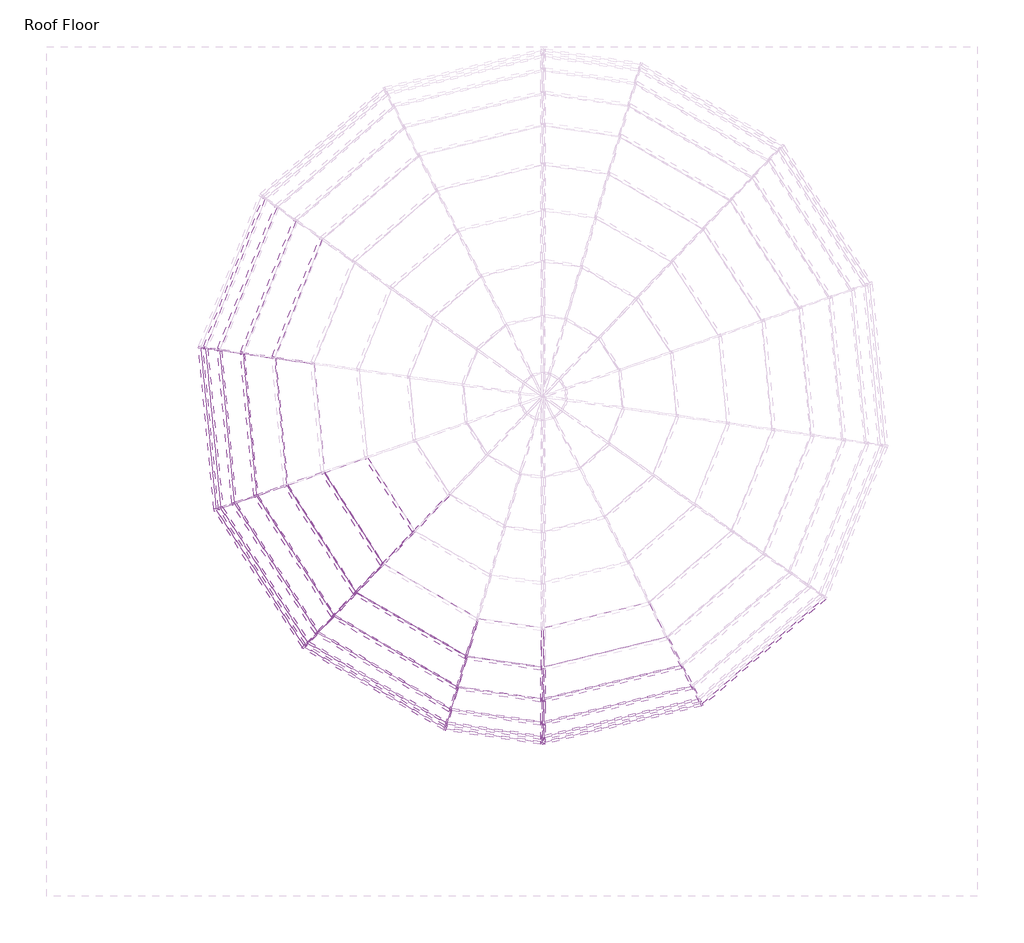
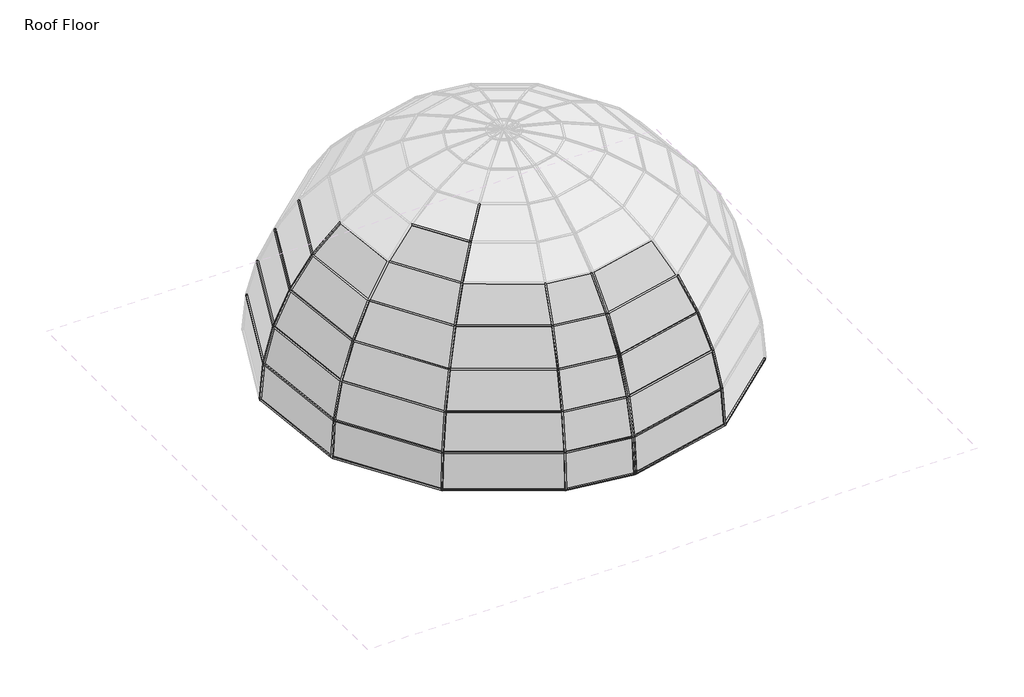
# One storey, part 1 of 5: 64 members, 26 plates.
"""IFC4 building model written with IfcOpenShell, lengths in millimetres."""

from ifc_helpers import new_model, si_unit, origin, place, context, project, spatial, transform, mapped, element, save
from components import member_4cbb40d8, member_e5884c93, member_19e455aa, member_1644e863, member_ecfbb555, member_824fc51d, member_1f5db4fb, member_3542fcca, member_54749c12, member_8c0c7285, member_24c90e2e, member_6952dcc5, member_c3dcfc8e, member_16816f3b, member_95e271e4, member_56577a18, member_7f7bd10d, member_e03b8e9c, member_dc775c2f, member_acb6b9ec, member_e077157f, member_8ccf5568, member_3c5b05b3, member_fd7ad58a, member_76afc974, member_c7f1f8f4, member_51c93bb0, system_panel_glazed_8f517b17, system_panel_glazed_e103372f, system_panel_glazed_d4e3dddd, system_panel_glazed_6000cac6, system_panel_glazed_c16507b5, system_panel_glazed_773f6a53, system_panel_glazed_509ce35e, system_panel_glazed_afa622ac, system_panel_glazed_fdc99001, system_panel_glazed_fc471d4c, system_panel_glazed_079f8796, system_panel_glazed_023fd094, system_panel_glazed_a1e2ecf7, system_panel_glazed_c9cd471f, system_panel_glazed_8f62df24, system_panel_glazed_44273b71

model = new_model("IFC4")

# Units and contexts
model_context = context("Model", 3, world=origin())
ifc_project = project(units=[si_unit("LENGTHUNIT", "METRE", prefix="MILLI")], contexts=[model_context])

# Site, building, storey
site = spatial("IfcSite", under=ifc_project)
building = spatial("IfcBuilding", under=site)
storey = spatial("IfcBuildingStorey", under=building, Name="Roof Floor", Elevation=15240.0)

# Members
placement = place(None, origin())
member_shape = member_4cbb40d8(model_context)
element("IfcMember", 1, ObjectType="Rectangular Mullion : 1\" Square", at=placement, inside=storey, context=model_context, shape_type="MappedRepresentation", body=[
    mapped(member_shape, transform((-2496.2458139, -4273.2496471, 21117.9670279), x_axis=(0.08886370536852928, 0.6165291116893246, 0.7823011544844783), y_axis=(-0.11160400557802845, -0.7742994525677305, 0.6229003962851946), z_axis=(0.9897715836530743, -0.14266117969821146, 0.0))),
])
member_2_shape = member_e5884c93(model_context)
element("IfcMember", 2, ObjectType="Rectangular Mullion : 1\" Square", at=placement, inside=storey, context=model_context, shape_type="MappedRepresentation", body=[
    mapped(member_2_shape, transform((-3496.18083, -4124.3511917, 21117.9670279), x_axis=(0.31528228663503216, 0.5452768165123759, 0.7767047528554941), y_axis=(-0.38878380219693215, -0.6723967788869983, 0.6298648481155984), z_axis=(0.8657044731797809, -0.5005554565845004, 0.0))),
])
element("IfcMember", 3, ObjectType="Rectangular Mullion : 1\" Square", at=placement, inside=storey, context=model_context, shape_type="MappedRepresentation", body=[
    mapped(member_2_shape, transform((-4957.4772001, -3272.7002476, 21117.9670279), x_axis=(0.5300546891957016, 0.3402524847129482, 0.7767047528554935), y_axis=(-0.6536259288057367, -0.41957528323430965, 0.6298648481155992), z_axis=(0.5401991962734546, -0.8415371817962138, 0.0))),
])
element("IfcMember", 4, ObjectType="Rectangular Mullion : 1\" Square", at=placement, inside=storey, context=model_context, shape_type="MappedRepresentation", body=[
    mapped(member_2_shape, transform((-6020.5401393, -161.9169828, 21117.9670279), x_axis=(0.5846780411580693, -0.2342676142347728, 0.7767047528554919), y_axis=(-0.7209835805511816, 0.28888224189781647, 0.6298648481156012), z_axis=(-0.3719331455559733, -0.9282595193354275, 0.0))),
])
member_3_shape = member_19e455aa(model_context)
element("IfcMember", 5, ObjectType="Rectangular Mullion : 1\" Square", at=placement, inside=storey, context=model_context, shape_type="MappedRepresentation", body=[
    mapped(member_3_shape, transform((-2496.2458139, -4693.39682, 20482.2624164), x_axis=(0.06901071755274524, 0.4787907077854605, 0.875212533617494), y_axis=(-0.12485885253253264, -0.8662604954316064, 0.4837385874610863), z_axis=(0.9897715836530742, -0.1426611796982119, 0.0))),
])
member_4_shape = member_1644e863(model_context)
element("IfcMember", 6, ObjectType="Rectangular Mullion : 1\" Square", at=placement, inside=storey, context=model_context, shape_type="MappedRepresentation", body=[
    mapped(member_4_shape, transform((-3614.8320569, -4527.3965158, 20482.2624164), x_axis=(0.24554093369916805, 0.424660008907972, 0.8714204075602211), y_axis=(-0.4361942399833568, -0.7543925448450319, 0.4905369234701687), z_axis=(0.8657044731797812, -0.5005554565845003, 0.0))),
])
element("IfcMember", 7, ObjectType="Rectangular Mullion : 1\" Square", at=placement, inside=storey, context=model_context, shape_type="MappedRepresentation", body=[
    mapped(member_4_shape, transform((-5247.5892288, -3576.60592, 20482.2624164), x_axis=(0.41280506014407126, 0.26498765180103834, 0.8714204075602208), y_axis=(-0.7333326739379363, -0.4707406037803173, 0.49053692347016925), z_axis=(0.5401991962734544, -0.841537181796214, 0.0))),
])
element("IfcMember", 8, ObjectType="Rectangular Mullion : 1\" Square", at=placement, inside=storey, context=model_context, shape_type="MappedRepresentation", body=[
    mapped(member_4_shape, transform((-6263.3500422, -1983.4553593, 20482.2624164), x_axis=(0.48833472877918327, 0.04642914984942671, 0.8714204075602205), y_axis=(-0.867508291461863, -0.0824796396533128, 0.49053692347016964), z_axis=(0.09464965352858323, -0.9955106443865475, 0.0))),
])
element("IfcMember", 9, ObjectType="Rectangular Mullion : 1\" Square", at=placement, inside=storey, context=model_context, shape_type="MappedRepresentation", body=[
    mapped(member_4_shape, transform((-6436.389872, -101.9782914, 20482.2624164), x_axis=(0.4553455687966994, -0.1824469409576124, 0.8714204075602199), y_axis=(-0.8089042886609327, 0.32411013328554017, 0.4905369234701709), z_axis=(-0.3719331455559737, -0.9282595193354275, 0.0))),
])
member_5_shape = member_ecfbb555(model_context)
element("IfcMember", 10, ObjectType="Rectangular Mullion : 1\" Square", at=placement, inside=storey, context=model_context, shape_type="MappedRepresentation", body=[
    mapped(member_5_shape, transform((-6555.1468004, -2084.2947787, 19785.6060711), x_axis=(0.3344897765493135, 0.03180211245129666, 0.941862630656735), y_axis=(-0.9376342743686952, -0.08914697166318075, 0.3359981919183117), z_axis=(0.09464965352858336, -0.9955106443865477, 0.0))),
])
element("IfcMember", 11, ObjectType="Rectangular Mullion : 1\" Square", at=placement, inside=storey, context=model_context, shape_type="MappedRepresentation", body=[
    mapped(member_5_shape, transform((-6741.9616101, -57.9345693, 19785.6060711), x_axis=(0.311893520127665, -0.12496886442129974, 0.9418626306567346), y_axis=(-0.8742929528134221, 0.35030993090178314, 0.33599819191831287), z_axis=(-0.3719331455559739, -0.9282595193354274, 0.0))),
])
element("IfcMember", 12, ObjectType="Rectangular Mullion : 1\" Square", at=placement, inside=storey, context=model_context, shape_type="MappedRepresentation", body=[
    mapped(member_5_shape, transform((-3702.0185062, -4823.5594096, 19785.6060711), x_axis=(0.16818572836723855, 0.2908751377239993, 0.9418626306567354), y_axis=(-0.47145447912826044, -0.815374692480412, 0.33599819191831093), z_axis=(0.8657044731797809, -0.5005554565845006, 0.0))),
])
element("IfcMember", 13, ObjectType="Rectangular Mullion : 1\" Square", at=placement, inside=storey, context=model_context, shape_type="MappedRepresentation", body=[
    mapped(member_5_shape, transform((-5460.767283, -3799.9197212, 19785.6060711), x_axis=(0.2827549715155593, 0.18150595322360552, 0.9418626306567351), y_axis=(-0.7926124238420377, -0.5087934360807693, 0.33599819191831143), z_axis=(0.5401991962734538, -0.8415371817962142, 0.0))),
])
member_6_shape = member_824fc51d(model_context)
element("IfcMember", 14, ObjectType="Rectangular Mullion : 1\" Square", at=placement, inside=storey, context=model_context, shape_type="MappedRepresentation", body=[
    mapped(member_6_shape, transform((-504.4652648, -4528.7696197, 19785.6060711), x_axis=(-0.0791955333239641, 0.3265315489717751, 0.9418626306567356), y_axis=(0.22199915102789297, -0.9153259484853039, 0.3359981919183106), z_axis=(0.9718253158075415, 0.23570226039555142, 0.0))),
])
member_7_shape = member_1f5db4fb(model_context)
element("IfcMember", 15, ObjectType="Rectangular Mullion : 1\" Square", at=placement, inside=storey, context=model_context, shape_type="MappedRepresentation", body=[
    mapped(member_7_shape, transform((-2496.2458139, -5190.8624836, 19047.3495572), x_axis=(0.02393216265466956, 0.1660393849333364, 0.9858286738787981), y_axis=(-0.140639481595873, -0.9757452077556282, 0.16775525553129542), z_axis=(0.9897715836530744, -0.14266117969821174, 0.0))),
])
member_8_shape = member_3542fcca(model_context)
element("IfcMember", 16, ObjectType="Rectangular Mullion : 1\" Square", at=placement, inside=storey, context=model_context, shape_type="MappedRepresentation", body=[
    mapped(member_8_shape, transform((-3755.318332, -5004.6131259, 19047.3495572), x_axis=(0.08547664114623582, 0.1478307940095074, 0.9853120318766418), y_axis=(-0.4932033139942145, -0.8529890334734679, 0.1707635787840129), z_axis=(0.8657044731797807, -0.5005554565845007, 0.0))),
])
element("IfcMember", 17, ObjectType="Rectangular Mullion : 1\" Square", at=placement, inside=storey, context=model_context, shape_type="MappedRepresentation", body=[
    mapped(member_8_shape, transform((-5591.08975, -3936.43849, 19047.3495572), x_axis=(0.14370390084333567, 0.09224634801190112, 0.9853120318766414), y_axis=(-0.8291767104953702, -0.5322647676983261, 0.17076357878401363), z_axis=(0.540199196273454, -0.8415371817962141, 0.0))),
])
element("IfcMember", 18, ObjectType="Rectangular Mullion : 1\" Square", at=placement, inside=storey, context=model_context, shape_type="MappedRepresentation", body=[
    mapped(member_8_shape, transform((-6733.5313603, -2145.9410957, 19047.3495572), x_axis=(0.16999696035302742, 0.016162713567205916, 0.9853120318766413), y_axis=(-0.9808886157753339, -0.09325944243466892, 0.17076357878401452), z_axis=(0.09464965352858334, -0.9955106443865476, 0.0))),
])
element("IfcMember", 19, ObjectType="Rectangular Mullion : 1\" Square", at=placement, inside=storey, context=model_context, shape_type="MappedRepresentation", body=[
    mapped(member_8_shape, transform((-6928.7672496, -31.009253, 19047.3495572), x_axis=(0.1585129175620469, -0.06351263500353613, 0.9853120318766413), y_axis=(-0.9146252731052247, 0.3664702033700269, 0.17076357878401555), z_axis=(-0.37193314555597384, -0.9282595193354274, 0.0))),
])
member_9_shape = member_54749c12(model_context)
element("IfcMember", 20, ObjectType="Rectangular Mullion : 1\" Square", at=placement, inside=storey, context=model_context, shape_type="MappedRepresentation", body=[
    mapped(member_9_shape, transform((-645.9013264, -4254.3433509, 20482.2624164), x_axis=(-0.11562066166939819, 0.47671620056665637, 0.8714204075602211), y_axis=(0.20539575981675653, -0.8468684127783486, 0.49053692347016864), z_axis=(0.9718253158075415, 0.2357022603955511, 0.0))),
])
member_10_shape = member_8c0c7285(model_context)
element("IfcMember", 21, ObjectType="Rectangular Mullion : 1\" Square", at=placement, inside=storey, context=model_context, shape_type="MappedRepresentation", body=[
    mapped(member_10_shape, transform((-2496.2458139, -5002.1263725, 19785.6060711), x_axis=(0.04716053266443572, 0.3271959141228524, 0.9437789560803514), y_axis=(-0.1346406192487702, -0.9341255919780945, 0.33057719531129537), z_axis=(0.9897715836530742, -0.14266117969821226, 0.0))),
])
member_11_shape = member_24c90e2e(model_context)
element("IfcMember", 22, ObjectType="Rectangular Mullion : 1\" Square", at=placement, inside=storey, context=model_context, shape_type="MappedRepresentation", body=[
    mapped(member_11_shape, transform((-418.0009402, -4696.5350518, 19047.3495572), x_axis=(-0.04024936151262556, 0.16595236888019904, 0.9853120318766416), y_axis=(0.23224027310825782, -0.9575511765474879, 0.17076357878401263), z_axis=(0.9718253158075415, 0.23570226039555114, 0.0))),
])
member_12_shape = member_6952dcc5(model_context)
element("IfcMember", 23, ObjectType="Rectangular Mullion : 1\" Square", at=placement, inside=storey, context=model_context, shape_type="MappedRepresentation", body=[
    mapped(member_12_shape, transform((-6995.1392456, -46.3821492, 18288.0), x_axis=(-0.08063742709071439, -0.007666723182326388, -0.9967140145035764), y_axis=(-0.9922394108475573, -0.09433863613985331, 0.08100106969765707), z_axis=(-0.09464965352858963, 0.995510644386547, 0.0))),
])
element("IfcMember", 24, ObjectType="Rectangular Mullion : 1\" Square", at=placement, inside=storey, context=model_context, shape_type="MappedRepresentation", body=[
    mapped(member_12_shape, transform((-6785.4860151, -2190.0124201, 18288.0), x_axis=(-0.06816541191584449, -0.04375671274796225, -0.9967140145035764), y_axis=(-0.8387719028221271, -0.5384241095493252, 0.08100106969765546), z_axis=(-0.5401991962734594, 0.8415371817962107, 0.0))),
])
element("IfcMember", 25, ObjectType="Rectangular Mullion : 1\" Square", at=placement, inside=storey, context=model_context, shape_type="MappedRepresentation", body=[
    mapped(member_12_shape, transform((-5617.0815847, -3999.4146149, 18288.0), x_axis=(-0.04054552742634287, -0.07012298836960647, -0.9967140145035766), y_axis=(-0.4989106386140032, -0.8628597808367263, 0.08100106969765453), z_axis=(-0.8657044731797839, 0.5005554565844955, 0.0))),
])
element("IfcMember", 26, ObjectType="Rectangular Mullion : 1\" Square", at=placement, inside=storey, context=model_context, shape_type="MappedRepresentation", body=[
    mapped(member_12_shape, transform((-366.9684834, -4741.6710256, 18288.0), x_axis=(0.053033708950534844, -0.061225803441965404, -0.9967140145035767), y_axis=(0.6525770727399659, -0.7533803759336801, 0.08100106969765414), z_axis=(-0.7558641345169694, -0.6547285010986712, 0.0))),
])
member_13_shape = member_c3dcfc8e(model_context)
element("IfcMember", 27, ObjectType="Rectangular Mullion : 1\" Square", at=placement, inside=storey, context=model_context, shape_type="MappedRepresentation", body=[
    mapped(member_13_shape, transform((-3749.6864378, -5073.6972463, 18288.0), x_axis=(-0.01176766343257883, -0.0816430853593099, -0.9965921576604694), y_axis=(-0.14217501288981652, -0.9863985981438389, 0.08248679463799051), z_axis=(-0.9897715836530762, 0.14266117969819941, 0.0))),
])
member_14_shape = member_16816f3b(model_context)
element("IfcMember", 28, ObjectType="Rectangular Mullion : 1\" Square", at=placement, inside=storey, context=model_context, shape_type="MappedRepresentation", body=[
    mapped(member_14_shape, transform((-4180.5990919, -2458.884754, 22138.0708204), x_axis=(0.714452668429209, 0.4586211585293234, 0.5284165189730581), y_axis=(-0.4446821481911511, -0.28545017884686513, 0.8489852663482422), z_axis=(0.5401991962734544, -0.841537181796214, 0.0))),
])
member_15_shape = member_95e271e4(model_context)
element("IfcMember", 29, ObjectType="Rectangular Mullion : 1\" Square", at=placement, inside=storey, context=model_context, shape_type="MappedRepresentation", body=[
    mapped(member_15_shape, transform((-4598.4898643, -2896.6445282, 21675.0614442), x_axis=(0.6313968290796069, 0.40530598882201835, 0.6611089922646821), y_axis=(-0.5563477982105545, -0.35713054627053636, 0.7502898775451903), z_axis=(0.5401991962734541, -0.8415371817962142, 0.0))),
])
member_16_shape = member_56577a18(model_context)
element("IfcMember", 30, ObjectType="Rectangular Mullion : 1\" Square", at=placement, inside=storey, context=model_context, shape_type="MappedRepresentation", body=[
    mapped(member_16_shape, transform((-2446.4212527, -5251.9992402, 18288.0), x_axis=(0.01909213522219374, -0.078718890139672, -0.9967140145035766), y_axis=(0.23492774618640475, -0.9686319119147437, 0.08100106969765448), z_axis=(-0.9718253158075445, -0.2357022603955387, 0.0))),
])
member_17_shape = member_7f7bd10d(model_context)
element("IfcMember", 31, ObjectType="Rectangular Mullion : 1\" Square", at=placement, inside=storey, context=model_context, shape_type="MappedRepresentation", body=[
    mapped(member_17_shape, transform((-6933.4908006, -42.7981489, 19047.3495572), x_axis=(-0.14266117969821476, -0.9897715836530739, 0.0), y_axis=(-0.9589308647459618, 0.1382159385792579, 0.24768518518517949), z_axis=(-0.24515175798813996, 0.03533506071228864, -0.9688405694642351))),
])
element("IfcMember", 32, ObjectType="Rectangular Mullion : 1\" Square", at=placement, inside=storey, context=model_context, shape_type="MappedRepresentation", body=[
    mapped(member_17_shape, transform((-6746.685161, -69.7234652, 19785.6060711), x_axis=(-0.1426611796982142, -0.9897715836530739, 0.0), y_axis=(-0.904895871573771, 0.13042758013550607, 0.40515689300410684), z_axis=(-0.401012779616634, 0.0578001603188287, -0.9142471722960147))),
])
element("IfcMember", 33, ObjectType="Rectangular Mullion : 1\" Square", at=placement, inside=storey, context=model_context, shape_type="MappedRepresentation", body=[
    mapped(member_17_shape, transform((-6441.1134229, -113.7671873, 20482.2624164), x_axis=(-0.1426611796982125, -0.9897715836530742, 0.0), y_axis=(-0.8257248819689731, 0.11901623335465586, 0.5513742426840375), z_axis=(-0.5457345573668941, 0.07865969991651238, -0.834258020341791))),
])
element("IfcMember", 34, ObjectType="Rectangular Mullion : 1\" Square", at=placement, inside=storey, context=model_context, shape_type="MappedRepresentation", body=[
    mapped(member_17_shape, transform((-6025.2636902, -173.7058787, 21117.9670279), x_axis=(-0.1426611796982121, -0.9897715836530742, 0.0), y_axis=(-0.7236170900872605, 0.1042988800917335, 0.6822756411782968), z_axis=(-0.6752970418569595, 0.09733424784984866, -0.731095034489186))),
])
element("IfcMember", 35, ObjectType="Rectangular Mullion : 1\" Square", at=placement, inside=storey, context=model_context, shape_type="MappedRepresentation", body=[
    mapped(member_17_shape, transform((-405.6587587, -4693.5416331, 19047.3495572), x_axis=(0.8888888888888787, 0.4581228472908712, 0.0), y_axis=(0.44384800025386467, -0.8611916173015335, 0.2476851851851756), z_axis=(0.11347024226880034, -0.2201646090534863, -0.9688405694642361))),
])
element("IfcMember", 36, ObjectType="Rectangular Mullion : 1\" Square", at=placement, inside=storey, context=model_context, shape_type="MappedRepresentation", body=[
    mapped(member_17_shape, transform((-492.1230833, -4525.776201, 19785.6060711), x_axis=(0.8888888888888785, 0.45812284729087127, 0.0), y_axis=(0.4188375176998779, -0.8126641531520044, 0.4051568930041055), z_axis=(0.18561162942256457, -0.3601394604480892, -0.9142471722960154))),
])
element("IfcMember", 37, ObjectType="Rectangular Mullion : 1\" Square", at=placement, inside=storey, context=model_context, shape_type="MappedRepresentation", body=[
    mapped(member_17_shape, transform((-633.5591449, -4251.3499322, 20482.2624164), x_axis=(0.8888888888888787, 0.458122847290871, 0.0), y_axis=(0.38219265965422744, -0.7415626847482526, 0.5513742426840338), z_axis=(0.2525971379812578, -0.4901104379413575, -0.8342580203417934))),
])
member_18_shape = member_e03b8e9c(model_context)
element("IfcMember", 38, ObjectType="Rectangular Mullion : 1\" Square", at=placement, inside=storey, context=model_context, shape_type="MappedRepresentation", body=[
    mapped(member_18_shape, transform((-2471.1056157, -5194.4860776, 19047.3495572), x_axis=(-0.9720128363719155, -0.23411060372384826, 0.01957731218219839), y_axis=(0.23492774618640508, -0.9686319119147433, 0.08100106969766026), z_axis=(0.0, 0.08333333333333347, 0.9965217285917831))),
])
member_19_shape = member_dc775c2f(model_context)
element("IfcMember", 39, ObjectType="Rectangular Mullion : 1\" Square", at=placement, inside=storey, context=model_context, shape_type="MappedRepresentation", body=[
    mapped(member_19_shape, transform((-2471.1056157, -5005.7499665, 19785.6060711), x_axis=(-0.9734856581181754, -0.2216203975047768, 0.05665750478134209), y_axis=(0.22874805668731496, -0.9431523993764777, 0.24111797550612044), z_axis=(0.0, 0.247685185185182, 0.9688405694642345))),
])
member_20_shape = member_acb6b9ec(model_context)
element("IfcMember", 40, ObjectType="Rectangular Mullion : 1\" Square", at=placement, inside=storey, context=model_context, shape_type="MappedRepresentation", body=[
    mapped(member_20_shape, transform((-2471.1056157, -4697.020414, 20482.2624164), x_axis=(-0.9762871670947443, -0.19791575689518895, 0.08770815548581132), y_axis=(0.21647948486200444, -0.8925677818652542, 0.3955494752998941), z_axis=(0.0, 0.4051568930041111, 0.9142471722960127))),
])
member_21_shape = member_e077157f(model_context)
element("IfcMember", 41, ObjectType="Rectangular Mullion : 1\" Square", at=placement, inside=storey, context=model_context, shape_type="MappedRepresentation", body=[
    mapped(member_21_shape, transform((-2471.1056157, -4276.8732411, 21117.9670279), x_axis=(-0.980137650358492, -0.16544871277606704, 0.10934765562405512), y_axis=(0.1983183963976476, -0.817687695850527, 0.54042265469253), z_axis=(0.0, 0.5513742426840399, 0.8342580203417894))),
])
member_22_shape = member_8ccf5568(model_context)
element("IfcMember", 42, ObjectType="Rectangular Mullion : 1\" Square", at=placement, inside=storey, context=model_context, shape_type="MappedRepresentation", body=[
    mapped(member_22_shape, transform((-3762.2565369, -5071.8854493, 18288.0), x_axis=(0.9592955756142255, -0.2824039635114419, 0.0), y_axis=(-0.2814216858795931, -0.9559588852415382, 0.08333333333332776), z_axis=(-0.023533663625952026, -0.07994129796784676, -0.9965217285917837))),
])
element("IfcMember", 43, ObjectType="Rectangular Mullion : 1\" Square", at=placement, inside=storey, context=model_context, shape_type="MappedRepresentation", body=[
    mapped(member_22_shape, transform((-5628.0760315, -3993.0575606, 18288.0), x_axis=(0.7233314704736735, -0.690500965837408, 0.0), y_axis=(-0.6880992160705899, -0.720815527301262, 0.08333333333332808), z_axis=(-0.057541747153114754, -0.06027762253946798, -0.9965217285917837))),
])
element("IfcMember", 44, ObjectType="Rectangular Mullion : 1\" Square", at=placement, inside=storey, context=model_context, shape_type="MappedRepresentation", body=[
    mapped(member_22_shape, transform((-6792.3465449, -2179.3248979, 18288.0), x_axis=(0.3266270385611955, -0.9451533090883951, 0.0), y_axis=(-0.9418658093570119, -0.32549094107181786, 0.08333333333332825), z_axis=(-0.07876277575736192, -0.02721891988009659, -0.9965217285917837))),
])
member_23_shape = member_3c5b05b3(model_context)
element("IfcMember", 45, ObjectType="Rectangular Mullion : 1\" Square", at=placement, inside=storey, context=model_context, shape_type="MappedRepresentation", body=[
    mapped(member_23_shape, transform((-2471.1056157, -5194.4860776, 19047.3495572), x_axis=(0.9903900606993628, -0.13399288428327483, 0.034255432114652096), y_axis=(-0.13830230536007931, -0.9595300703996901, 0.2453049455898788), z_axis=(0.0, -0.247685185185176, -0.9688405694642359))),
])
member_24_shape = member_fd7ad58a(model_context)
element("IfcMember", 46, ObjectType="Rectangular Mullion : 1\" Square", at=placement, inside=storey, context=model_context, shape_type="MappedRepresentation", body=[
    mapped(member_24_shape, transform((-2471.1056157, -5005.7499665, 19785.6060711), x_axis=(0.9914290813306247, -0.1194427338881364, 0.052932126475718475), y_axis=(-0.13064599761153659, -0.9064112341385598, 0.4016843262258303), z_axis=(0.0, -0.4051568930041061, -0.914247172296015))),
])
member_25_shape = member_76afc974(model_context)
element("IfcMember", 47, ObjectType="Rectangular Mullion : 1\" Square", at=placement, inside=storey, context=model_context, shape_type="MappedRepresentation", body=[
    mapped(member_25_shape, transform((-2471.1056157, -4697.020414, 20482.2624164), x_axis=(0.9928478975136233, -0.09959885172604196, 0.06582644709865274), y_axis=(-0.11938614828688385, -0.828291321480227, 0.5474307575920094), z_axis=(0.0, -0.551374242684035, -0.8342580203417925))),
])
member_26_shape = member_c7f1f8f4(model_context)
element("IfcMember", 48, ObjectType="Rectangular Mullion : 1\" Square", at=placement, inside=storey, context=model_context, shape_type="MappedRepresentation", body=[
    mapped(member_26_shape, transform((-2471.1056157, -4276.8732411, 21117.9670279), x_axis=(0.9944936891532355, -0.07661618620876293, 0.07150008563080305), y_axis=(-0.10479648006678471, -0.7270693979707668, 0.678518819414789), z_axis=(0.0, -0.6822756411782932, -0.7310950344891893))),
])
member_27_shape = member_51c93bb0(model_context)
element("IfcMember", 49, ObjectType="Rectangular Mullion : 1\" Square", at=placement, inside=storey, context=model_context, shape_type="MappedRepresentation", body=[
    mapped(member_27_shape, transform((-2471.1056157, -5257.9860776, 18288.0), x_axis=(0.9898415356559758, -0.14168048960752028, 0.011847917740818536), y_axis=(-0.14217501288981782, -0.9863985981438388, 0.08248679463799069), z_axis=(0.0, -0.08333333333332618, -0.9965217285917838))),
])
element("IfcMember", 50, ObjectType="Rectangular Mullion : 1\" Square", at=placement, inside=storey, context=model_context, shape_type="MappedRepresentation", body=[
    mapped(member_22_shape, transform((-6996.3412962, -33.739164, 18288.0), x_axis=(-0.14266117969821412, -0.9897715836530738, 0.0), y_axis=(-0.9863288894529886, 0.1421649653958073, 0.08333333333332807), z_axis=(-0.08248096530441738, 0.011888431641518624, -0.9965217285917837))),
])
element("IfcMember", 51, ObjectType="Rectangular Mullion : 1\" Square", at=placement, inside=storey, context=model_context, shape_type="MappedRepresentation", body=[
    mapped(member_22_shape, transform((-376.5679579, -4749.9860776, 18288.0), x_axis=(0.8888888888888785, 0.4581228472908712, 0.0), y_axis=(0.45652937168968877, -0.8857970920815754, 0.08333333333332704), z_axis=(0.03817690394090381, -0.07407407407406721, -0.9965217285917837))),
])
element("IfcMember", 52, ObjectType="Rectangular Mullion : 1\" Square", at=placement, inside=storey, context=model_context, shape_type="MappedRepresentation", body=[
    mapped(member_17_shape, transform((-6732.3293097, -2158.5840809, 19047.3495572), x_axis=(0.3266270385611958, -0.945153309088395, 0.0), y_axis=(-0.9157028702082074, -0.3164495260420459, 0.247685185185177), z_axis=(-0.23410047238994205, -0.08090067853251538, -0.9688405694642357))),
])
element("IfcMember", 53, ObjectType="Rectangular Mullion : 1\" Square", at=placement, inside=storey, context=model_context, shape_type="MappedRepresentation", body=[
    mapped(member_17_shape, transform((-6553.9447498, -2096.9377639, 19785.6060711), x_axis=(0.3266270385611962, -0.9451533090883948, 0.0), y_axis=(-0.8641037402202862, -0.2986178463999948, 0.4051568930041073), z_axis=(-0.3829353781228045, -0.1323351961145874, -0.9142471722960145))),
])
element("IfcMember", 54, ObjectType="Rectangular Mullion : 1\" Square", at=placement, inside=storey, context=model_context, shape_type="MappedRepresentation", body=[
    mapped(member_17_shape, transform((-6262.1479916, -1996.0983444, 20482.2624164), x_axis=(0.32662703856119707, -0.9451533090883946, 0.0), y_axis=(-0.78850172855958, -0.2724912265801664, 0.5513742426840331), z_axis=(-0.5211331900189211, -0.18009373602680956, -0.834258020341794))),
])
element("IfcMember", 55, ObjectType="Rectangular Mullion : 1\" Square", at=placement, inside=storey, context=model_context, shape_type="MappedRepresentation", body=[
    mapped(member_17_shape, transform((-5584.2292202, -3947.1260122, 19047.3495572), x_axis=(0.7233314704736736, -0.6905009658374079, 0.0), y_axis=(-0.668985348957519, -0.7007928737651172, 0.24768518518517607), z_axis=(-0.17102685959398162, -0.1791584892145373, -0.968840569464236))),
])
element("IfcMember", 56, ObjectType="Rectangular Mullion : 1\" Square", at=placement, inside=storey, context=model_context, shape_type="MappedRepresentation", body=[
    mapped(member_17_shape, transform((-5453.9067532, -3810.6072434, 19785.6060711), x_axis=(0.7233314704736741, -0.6905009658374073, 0.0), y_axis=(-0.6312885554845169, -0.6613037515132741, 0.4051568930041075), z_axis=(-0.27976122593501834, -0.29306273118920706, -0.9142471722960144))),
])
element("IfcMember", 57, ObjectType="Rectangular Mullion : 1\" Square", at=placement, inside=storey, context=model_context, shape_type="MappedRepresentation", body=[
    mapped(member_17_shape, transform((-5240.728699, -3587.2934423, 20482.2624164), x_axis=(0.7233314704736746, -0.6905009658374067, 0.0), y_axis=(-0.5760559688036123, -0.6034450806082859, 0.5513742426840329), z_axis=(-0.3807244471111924, -0.3988263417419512, -0.834258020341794))),
])
element("IfcMember", 58, ObjectType="Rectangular Mullion : 1\" Square", at=placement, inside=storey, context=model_context, shape_type="MappedRepresentation", body=[
    mapped(member_17_shape, transform((-4950.6166703, -3283.3877699, 21117.9670279), x_axis=(0.7233314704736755, -0.6905009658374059, 0.0), y_axis=(-0.5048218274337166, -0.5288240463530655, 0.6822756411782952), z_axis=(-0.47111198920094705, -0.49351144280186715, -0.7310950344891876))),
])
element("IfcMember", 59, ObjectType="Rectangular Mullion : 1\" Square", at=placement, inside=storey, context=model_context, shape_type="MappedRepresentation", body=[
    mapped(member_17_shape, transform((-4591.6293345, -2907.3320504, 21675.0614442), x_axis=(0.7233314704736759, -0.6905009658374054, 0.0), y_axis=(-0.41956485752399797, -0.43951345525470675, 0.7942249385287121), z_axis=(-0.5484130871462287, -0.5744878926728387, -0.6076238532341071))),
])
element("IfcMember", 60, ObjectType="Rectangular Mullion : 1\" Square", at=placement, inside=storey, context=model_context, shape_type="MappedRepresentation", body=[
    mapped(member_17_shape, transform((-4173.7385621, -2469.5722762, 22138.0708204), x_axis=(0.7233314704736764, -0.6905009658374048, 0.0), y_axis=(-0.3226533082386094, -0.3379941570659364, 0.8841124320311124), z_axis=(-0.6104804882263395, -0.6395063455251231, -0.46727423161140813))),
])
element("IfcMember", 61, ObjectType="Rectangular Mullion : 1\" Square", at=placement, inside=storey, context=model_context, shape_type="MappedRepresentation", body=[
    mapped(member_17_shape, transform((-3744.3238852, -5010.9701802, 19047.3495572), x_axis=(0.9592955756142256, -0.28240396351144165, 0.0), y_axis=(-0.27360441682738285, -0.9294044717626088, 0.24768518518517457), z_axis=(-0.06994727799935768, -0.23760330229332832, -0.9688405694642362))),
])
element("IfcMember", 62, ObjectType="Rectangular Mullion : 1\" Square", at=placement, inside=storey, context=model_context, shape_type="MappedRepresentation", body=[
    mapped(member_17_shape, transform((-3691.0240594, -4829.9164639, 19785.6060711), x_axis=(0.9592955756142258, -0.282403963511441, 0.0), y_axis=(-0.258187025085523, -0.8770332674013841, 0.40515689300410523), z_axis=(-0.11441791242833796, -0.38866521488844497, -0.9142471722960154))),
])
element("IfcMember", 63, ObjectType="Rectangular Mullion : 1\" Square", at=placement, inside=storey, context=model_context, shape_type="MappedRepresentation", body=[
    mapped(member_17_shape, transform((-3603.8376101, -4533.7535701, 20482.2624164), x_axis=(0.959295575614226, -0.2824039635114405, 0.0), y_axis=(-0.23559777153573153, -0.800300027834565, 0.5513742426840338), z_axis=(-0.15571027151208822, -0.5289308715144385, -0.8342580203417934))),
])
element("IfcMember", 64, ObjectType="Rectangular Mullion : 1\" Square", at=placement, inside=storey, context=model_context, shape_type="MappedRepresentation", body=[
    mapped(member_17_shape, transform((-3485.1863832, -4130.708246, 21117.9670279), x_axis=(0.9592955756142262, -0.28240396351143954, 0.0), y_axis=(-0.20646413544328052, -0.7013362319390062, 0.6822756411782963), z_axis=(-0.19267734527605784, -0.6545040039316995, -0.7310950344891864))),
])

# Plates
system_panel_glazed_shape = system_panel_glazed_8f517b17(model_context)
element("IfcPlate", 65, ObjectType="System Panel : Glazed", at=placement, inside=storey, context=model_context, shape_type="MappedRepresentation", body=[
    mapped(system_panel_glazed_shape, transform((-1418.1494455, -5000.4896196, 18313.316536), x_axis=(0.9718253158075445, 0.23570226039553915, 0.0), y_axis=(-0.2349277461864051, 0.9686319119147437, -0.08100106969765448), z_axis=(-0.01909213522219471, 0.07871889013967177, 0.9967140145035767))),
])
system_panel_glazed_2_shape = system_panel_glazed_e103372f(model_context)
element("IfcPlate", 66, ObjectType="System Panel : Glazed", at=placement, inside=storey, context=model_context, shape_type="MappedRepresentation", body=[
    mapped(system_panel_glazed_2_shape, transform((-6892.2957299, -1106.3372962, 18313.316536), x_axis=(0.09464965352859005, -0.9955106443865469, 0.0), y_axis=(0.9922394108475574, 0.09433863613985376, -0.08100106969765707), z_axis=(0.08063742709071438, 0.0076667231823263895, 0.9967140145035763))),
])
element("IfcPlate", 67, ObjectType="System Panel : Glazed", at=placement, inside=storey, context=model_context, shape_type="MappedRepresentation", body=[
    mapped(system_panel_glazed_2_shape, transform((-6208.4798867, -3085.0798087, 18313.316536), x_axis=(0.5401991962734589, -0.8415371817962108, 0.0), y_axis=(0.8387719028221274, 0.5384241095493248, -0.08100106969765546), z_axis=(0.06816541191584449, 0.04375671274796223, 0.9967140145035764))),
])
element("IfcPlate", 68, ObjectType="System Panel : Glazed", at=placement, inside=storey, context=model_context, shape_type="MappedRepresentation", body=[
    mapped(system_panel_glazed_2_shape, transform((-4694.1364278, -4530.690381, 18313.316536), x_axis=(0.8657044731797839, -0.5005554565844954, 0.0), y_axis=(0.49891063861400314, 0.8628597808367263, -0.08100106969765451), z_axis=(0.04054552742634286, 0.07012298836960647, 0.9967140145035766))),
])
system_panel_glazed_3_shape = system_panel_glazed_d4e3dddd(model_context)
element("IfcPlate", 69, ObjectType="System Panel : Glazed", at=placement, inside=storey, context=model_context, shape_type="MappedRepresentation", body=[
    mapped(system_panel_glazed_3_shape, transform((-3122.6676714, -5161.9560665, 18313.3134408), x_axis=(0.9897715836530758, -0.14266117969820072, 0.0), y_axis=(0.14217501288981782, 0.9863985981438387, -0.0824867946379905), z_axis=(0.011767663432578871, 0.0816430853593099, 0.9965921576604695))),
])
system_panel_glazed_4_shape = system_panel_glazed_6000cac6(model_context)
element("IfcPlate", 70, ObjectType="System Panel : Glazed", at=placement, inside=storey, context=model_context, shape_type="MappedRepresentation", body=[
    mapped(system_panel_glazed_4_shape, transform((-1432.9223203, -4939.5386671, 19059.674854), x_axis=(0.9718253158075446, 0.23570226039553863, 0.0), y_axis=(-0.22874805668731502, 0.9431523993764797, -0.24111797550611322), z_axis=(-0.056832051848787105, 0.23432455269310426, 0.9704958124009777))),
])
system_panel_glazed_5_shape = system_panel_glazed_c16507b5(model_context)
element("IfcPlate", 71, ObjectType="System Panel : Glazed", at=placement, inside=storey, context=model_context, shape_type="MappedRepresentation", body=[
    mapped(system_panel_glazed_5_shape, transform((-6829.8616042, -1100.4012789, 19059.674854), x_axis=(0.0946496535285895, -0.995510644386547, 0.0), y_axis=(0.9661389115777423, 0.09185709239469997, -0.2411179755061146), z_axis=(0.24003551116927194, 0.02282173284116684, 0.9704958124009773))),
])
element("IfcPlate", 72, ObjectType="System Panel : Glazed", at=placement, inside=storey, context=model_context, shape_type="MappedRepresentation", body=[
    mapped(system_panel_glazed_5_shape, transform((-6155.7023112, -3051.2008495, 19059.674854), x_axis=(0.5401991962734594, -0.8415371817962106, 0.0), y_axis=(0.816708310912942, 0.5242610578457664, -0.24111797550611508), z_axis=(0.20290974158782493, 0.13025173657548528, 0.9704958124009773))),
])
element("IfcPlate", 73, ObjectType="System Panel : Glazed", at=placement, inside=storey, context=model_context, shape_type="MappedRepresentation", body=[
    mapped(system_panel_glazed_5_shape, transform((-4662.7437526, -4476.3971375, 19059.674854), x_axis=(0.8657044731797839, -0.5005554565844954, 0.0), y_axis=(0.48578697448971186, 0.8401625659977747, -0.2411179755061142), z_axis=(0.12069291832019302, 0.20873690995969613, 0.9704958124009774))),
])
system_panel_glazed_6_shape = system_panel_glazed_773f6a53(model_context)
element("IfcPlate", 74, ObjectType="System Panel : Glazed", at=placement, inside=storey, context=model_context, shape_type="MappedRepresentation", body=[
    mapped(system_panel_glazed_6_shape, transform((-3113.5592846, -5098.7381569, 19059.661521), x_axis=(0.9897715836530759, -0.14266117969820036, 0.0), y_axis=(0.13830230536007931, 0.9595300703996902, -0.2453049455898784), z_axis=(0.034995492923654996, 0.24279586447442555, 0.9694459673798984))),
])
system_panel_glazed_7_shape = system_panel_glazed_509ce35e(model_context)
element("IfcPlate", 75, ObjectType="System Panel : Glazed", at=placement, inside=storey, context=model_context, shape_type="MappedRepresentation", body=[
    mapped(system_panel_glazed_7_shape, transform((-1476.5989712, -4759.3775593, 19797.2703184), x_axis=(0.9718253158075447, 0.23570226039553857, 0.0), y_axis=(-0.21647948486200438, 0.8925677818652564, -0.3955494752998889), z_axis=(-0.09323190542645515, 0.3844049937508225, 0.9184446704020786))),
])
system_panel_glazed_8_shape = system_panel_glazed_afa622ac(model_context)
element("IfcPlate", 76, ObjectType="System Panel : Glazed", at=placement, inside=storey, context=model_context, shape_type="MappedRepresentation", body=[
    mapped(system_panel_glazed_8_shape, transform((-6645.3140292, -1082.855144, 19797.2703184), x_axis=(0.09464965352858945, -0.995510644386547, 0.0), y_axis=(0.9143214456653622, 0.08693046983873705, -0.39554947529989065), z_axis=(0.39377371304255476, 0.03743862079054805, 0.9184446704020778))),
])
element("IfcPlate", 77, ObjectType="System Panel : Glazed", at=placement, inside=storey, context=model_context, shape_type="MappedRepresentation", body=[
    mapped(system_panel_glazed_8_shape, transform((-5999.6983077, -2951.0588247, 19797.2703184), x_axis=(0.5401991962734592, -0.8415371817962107, 0.0), y_axis=(0.7729053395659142, 0.49614307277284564, -0.3955494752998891), z_axis=(0.3328695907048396, 0.21367550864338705, 0.9184446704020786))),
])
element("IfcPlate", 78, ObjectType="System Panel : Glazed", at=placement, inside=storey, context=model_context, shape_type="MappedRepresentation", body=[
    mapped(system_panel_glazed_8_shape, transform((-4569.9508768, -4315.913006, 19797.2703184), x_axis=(0.8657044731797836, -0.5005554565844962, 0.0), y_axis=(0.45973249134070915, 0.7951016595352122, -0.39554947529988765), z_axis=(0.19799444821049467, 0.3424289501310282, 0.9184446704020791))),
])
system_panel_glazed_9_shape = system_panel_glazed_fdc99001(model_context)
element("IfcPlate", 79, ObjectType="System Panel : Glazed", at=placement, inside=storey, context=model_context, shape_type="MappedRepresentation", body=[
    mapped(system_panel_glazed_9_shape, transform((-3086.6326417, -4911.8765878, 19797.2364542), x_axis=(0.9897715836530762, -0.14266117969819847, 0.0), y_axis=(0.13064599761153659, 0.9064112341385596, -0.4016843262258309), z_axis=(0.05730475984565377, 0.39757573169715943, 0.9157781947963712))),
])
system_panel_glazed_10_shape = system_panel_glazed_fc471d4c(model_context)
element("IfcPlate", 80, ObjectType="System Panel : Glazed", at=placement, inside=storey, context=model_context, shape_type="MappedRepresentation", body=[
    mapped(system_panel_glazed_10_shape, transform((-1547.7262175, -4466.0056674, 20492.9481164), x_axis=(0.9718253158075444, 0.23570226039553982, 0.0), y_axis=(-0.1983183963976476, 0.8176876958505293, -0.5404226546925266), z_axis=(-0.12737884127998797, 0.5251964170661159, 0.8413936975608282))),
])
system_panel_glazed_11_shape = system_panel_glazed_079f8796(model_context)
element("IfcPlate", 81, ObjectType="System Panel : Glazed", at=placement, inside=storey, context=model_context, shape_type="MappedRepresentation", body=[
    mapped(system_panel_glazed_11_shape, transform((-6344.7981517, -1054.2831505, 20492.9481164), x_axis=(0.09464965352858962, -0.995510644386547, 0.0), y_axis=(0.8376163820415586, 0.07963762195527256, -0.5404226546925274), z_axis=(0.5379965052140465, 0.051150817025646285, 0.8413936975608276))),
])
element("IfcPlate", 82, ObjectType="System Panel : Glazed", at=placement, inside=storey, context=model_context, shape_type="MappedRepresentation", body=[
    mapped(system_panel_glazed_11_shape, transform((-5745.6625662, -2787.9883076, 20492.9481164), x_axis=(0.5401991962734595, -0.8415371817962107, 0.0), y_axis=(0.7080640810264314, 0.45452019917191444, -0.5404226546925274), z_axis=(0.4547857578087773, 0.29193588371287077, 0.8413936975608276))),
])
element("IfcPlate", 83, ObjectType="System Panel : Glazed", at=placement, inside=storey, context=model_context, shape_type="MappedRepresentation", body=[
    mapped(system_panel_glazed_11_shape, transform((-4418.8476584, -4054.5818581, 20492.9481164), x_axis=(0.8657044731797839, -0.5005554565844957, 0.0), y_axis=(0.42116420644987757, 0.7283982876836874, -0.540422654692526), z_axis=(0.2705115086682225, 0.4678463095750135, 0.8413936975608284))),
])
system_panel_glazed_12_shape = system_panel_glazed_023fd094(model_context)
element("IfcPlate", 84, ObjectType="System Panel : Glazed", at=placement, inside=storey, context=model_context, shape_type="MappedRepresentation", body=[
    mapped(system_panel_glazed_12_shape, transform((-3042.7843636, -4607.5970191, 20492.8904239), x_axis=(0.9897715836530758, -0.14266117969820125, 0.0), y_axis=(0.11938614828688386, 0.8282913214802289, -0.5474307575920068), z_axis=(0.07809711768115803, 0.5418314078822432, 0.8368509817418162))),
])
system_panel_glazed_13_shape = system_panel_glazed_a1e2ecf7(model_context)
element("IfcPlate", 85, ObjectType="System Panel : Glazed", at=placement, inside=storey, context=model_context, shape_type="MappedRepresentation", body=[
    mapped(system_panel_glazed_13_shape, transform((-1644.3303894, -4067.5716311, 21127.3743739), x_axis=(0.9718253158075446, 0.23570226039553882, 0.0), y_axis=(-0.1745931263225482, 0.7198659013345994, -0.6717963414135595), z_axis=(-0.15834391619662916, 0.6528686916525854, 0.7407359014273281))),
])
system_panel_glazed_14_shape = system_panel_glazed_c9cd471f(model_context)
element("IfcPlate", 86, ObjectType="System Panel : Glazed", at=placement, inside=storey, context=model_context, shape_type="MappedRepresentation", body=[
    mapped(system_panel_glazed_14_shape, transform((-5936.6605843, -1015.4788649, 21127.3743739), x_axis=(0.09464965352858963, -0.9955106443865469, 0.0), y_axis=(0.7374104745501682, 0.07011039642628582, -0.6717963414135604), z_axis=(0.6687804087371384, 0.06358529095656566, 0.7407359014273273))),
])
element("IfcPlate", 87, ObjectType="System Panel : Glazed", at=placement, inside=storey, context=model_context, shape_type="MappedRepresentation", body=[
    mapped(system_panel_glazed_14_shape, transform((-5400.6507473, -2566.5184649, 21127.3743739), x_axis=(0.5401991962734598, -0.8415371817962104, 0.0), y_axis=(0.6233568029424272, 0.4001449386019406, -0.6717963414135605), z_axis=(0.5653415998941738, 0.3629038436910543, 0.7407359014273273))),
])
element("IfcPlate", 88, ObjectType="System Panel : Glazed", at=placement, inside=storey, context=model_context, shape_type="MappedRepresentation", body=[
    mapped(system_panel_glazed_14_shape, transform((-4213.6308809, -3699.6619788, 21127.3743739), x_axis=(0.8657044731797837, -0.5005554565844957, 0.0), y_axis=(0.37077939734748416, 0.6412583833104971, -0.6717963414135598), z_axis=(0.33627132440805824, 0.581577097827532, 0.7407359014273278))),
])
system_panel_glazed_15_shape = system_panel_glazed_8f62df24(model_context)
element("IfcPlate", 89, ObjectType="System Panel : Glazed", at=placement, inside=storey, context=model_context, shape_type="MappedRepresentation", body=[
    mapped(system_panel_glazed_15_shape, transform((-2983.231696, -4194.3514743, 21127.2962322), x_axis=(0.9897715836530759, -0.14266117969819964, 0.0), y_axis=(0.1047964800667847, 0.7270693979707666, -0.6785188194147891), z_axis=(0.09679829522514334, 0.6715786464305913, 0.7345830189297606))),
])
system_panel_glazed_16_shape = system_panel_glazed_44273b71(model_context)
element("IfcPlate", 90, ObjectType="System Panel : Glazed", at=placement, inside=storey, context=model_context, shape_type="MappedRepresentation", body=[
    mapped(system_panel_glazed_16_shape, transform((-4974.2495354, -2292.8031771, 21682.9171425), x_axis=(0.5401991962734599, -0.8415371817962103, 0.0), y_axis=(0.5205403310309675, 0.3341450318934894, -0.7857384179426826), z_axis=(0.661228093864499, 0.4244552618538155, 0.6185589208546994))),
])

save(model, "model.ifc")
